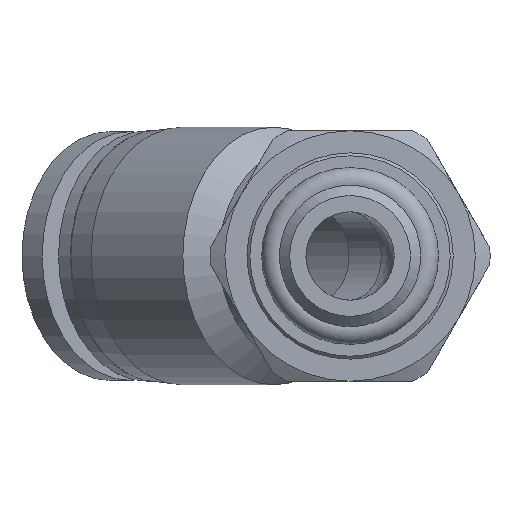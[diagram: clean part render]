
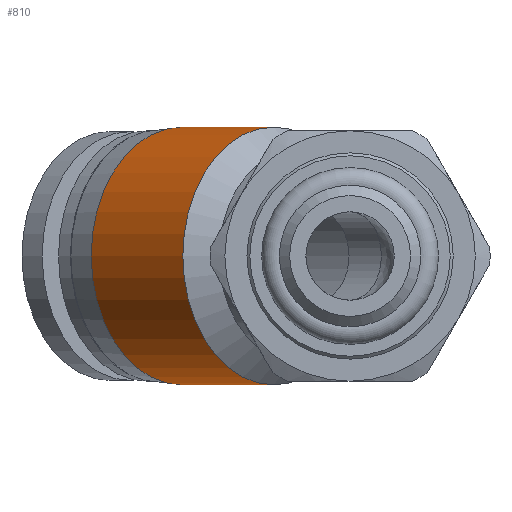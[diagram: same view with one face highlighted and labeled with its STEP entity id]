
A CAD part, front view. The second image highlights one B-rep face of the part: STEP entity #810.
In plain terms, the highlighted cylindrical face has radius 8.75 mm (diameter 17.5 mm), a full revolution.
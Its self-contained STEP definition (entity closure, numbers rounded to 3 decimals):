
#32=FACE_BOUND('',#271,.T.);
#62=CYLINDRICAL_SURFACE('',#923,8.75);
#105=CIRCLE('',#902,8.75);
#115=CIRCLE('',#922,8.75);
#194=FACE_OUTER_BOUND('',#270,.T.);
#270=EDGE_LOOP('',(#701));
#271=EDGE_LOOP('',(#702));
#412=VERTEX_POINT('',#1434);
#422=VERTEX_POINT('',#1464);
#515=EDGE_CURVE('',#412,#412,#105,.T.);
#525=EDGE_CURVE('',#422,#422,#115,.T.);
#701=ORIENTED_EDGE('',*,*,#515,.F.);
#702=ORIENTED_EDGE('',*,*,#525,.T.);
#810=ADVANCED_FACE('',(#194,#32),#62,.T.);
#902=AXIS2_PLACEMENT_3D('',#1435,#1120,#1121);
#922=AXIS2_PLACEMENT_3D('',#1465,#1160,#1161);
#923=AXIS2_PLACEMENT_3D('',#1466,#1162,#1163);
#1120=DIRECTION('center_axis',(0.707,-0.707,0.));
#1121=DIRECTION('ref_axis',(0.707,0.707,0.));
#1160=DIRECTION('center_axis',(0.707,-0.707,0.));
#1161=DIRECTION('ref_axis',(0.707,0.707,0.));
#1162=DIRECTION('center_axis',(0.707,-0.707,0.));
#1163=DIRECTION('ref_axis',(0.707,0.707,0.));
#1434=CARTESIAN_POINT('',(1.025,34.249,0.));
#1435=CARTESIAN_POINT('Origin',(-5.162,28.061,0.));
#1464=CARTESIAN_POINT('',(-5.197,40.471,0.));
#1465=CARTESIAN_POINT('Origin',(-11.384,34.284,0.));
#1466=CARTESIAN_POINT('Origin',(-8.273,31.173,0.));
